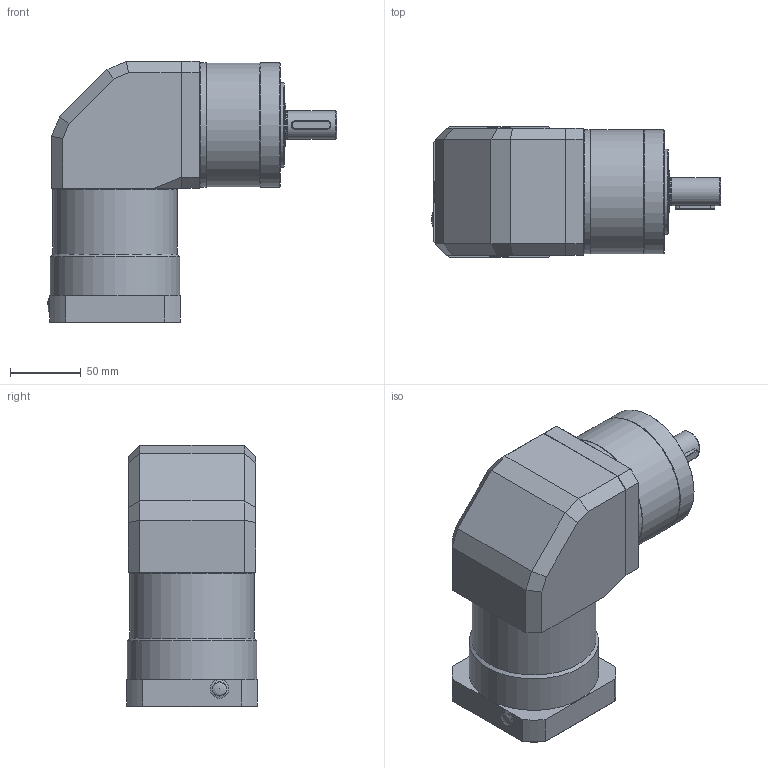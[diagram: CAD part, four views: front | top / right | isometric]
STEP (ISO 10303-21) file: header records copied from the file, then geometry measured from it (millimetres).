
FILE_DESCRIPTION(/* description */ (''),/* implementation_level */ '2;1');
FILE_NAME(/* name */ 'ASM00020674_A0_B9067.0035.100-400-高精密行星直角减速机-Ф19_45-Ф70_6-Ф90_M6-_90-GPESR090-35.stp',/* time_stamp */ '2025-03-14T11:13:04+08:00',/* author */ (''),/* organization */ (''),/* preprocessor_version */ 'ST-DEVELOPER v18.102',/* originating_system */ 'SIEMENS PLM Software NX 2027',/* authorisation */ '');
FILE_SCHEMA (('AUTOMOTIVE_DESIGN { 1 0 10303 214 3 1 1 1 }'));
Length unit declared in the file: millimetre
Products named in the file (1): A0_objects
Bounding box: 204.85 x 92.5 x 185 mm (x, y, z)
Volume: 1683486.8 mm3; surface area: 120938.1 mm2
Topology: 1 solids, 2 shells, 513 faces, 1168 edges, 688 vertices
Faces by surface type: plane 285, cone 122, cylinder 77, torus 24, bspline 4, sphere 1
Full cylindrical faces by diameter (mm): 5 x9, 5.795 x1, 6.4 x1, 6.6 x1, 7.9 x1, 8 x1, 8.5 x6, 9 x6, 9.5 x1, 10 x5, 10.2 x1, 11 x4, 19 x1, 19.5 x1, 19.8 x1, 20 x2, 30 x1, 40 x1, 47 x1, 54.999 x1, 55 x1, 60 x2, 65 x1, 88 x4, 92 x1
Entity records: 13359 total; most frequent: CARTESIAN_POINT 2813, DIRECTION 2231, ORIENTED_EDGE 1940, EDGE_CURVE 970, AXIS2_PLACEMENT_3D 878, EDGE_LOOP 676, VERTEX_POINT 630, ADVANCED_FACE 512
